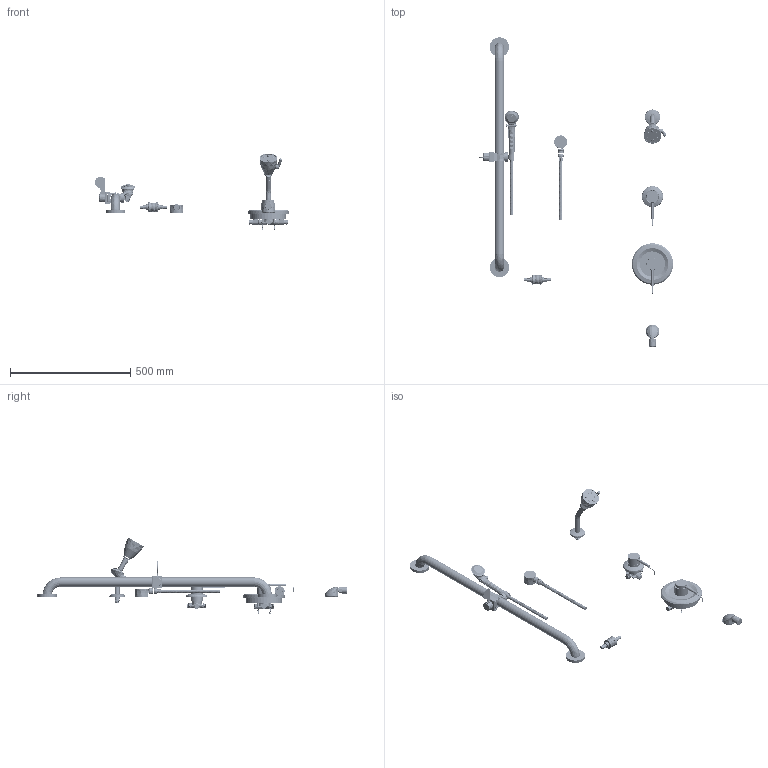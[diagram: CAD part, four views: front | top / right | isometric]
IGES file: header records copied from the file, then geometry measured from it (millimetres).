
Start section:  PTC IGES file: sh-pb5-31-024_rev030724.igs
Global section: file name: sh-pb5-31-024_rev030724.igs; native system: Creo Parametric by PTC Inc.; preprocessor: 2021184; author: rodjo; organization: Unknown; date: 20240307.120225; units: inch
Bounding box: 806.32 x 1283.64 x 318.2 mm (x, y, z)
Surface area: 617205.5 mm2 (no closed solid volume)
Topology: 0 solids, 0 shells, 1886 faces, 15269 edges, 20709 vertices
Faces by surface type: revolution 1295, bspline 591
